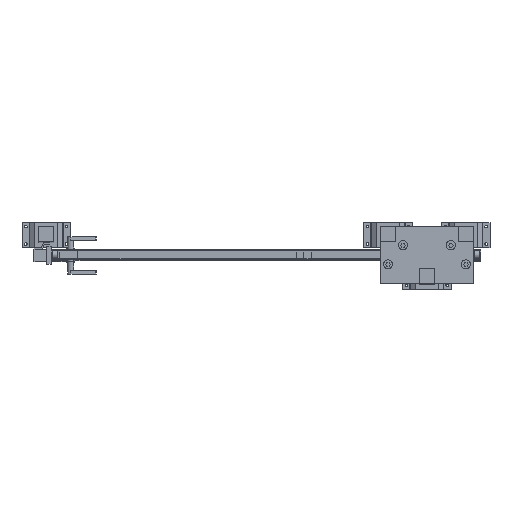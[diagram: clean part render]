
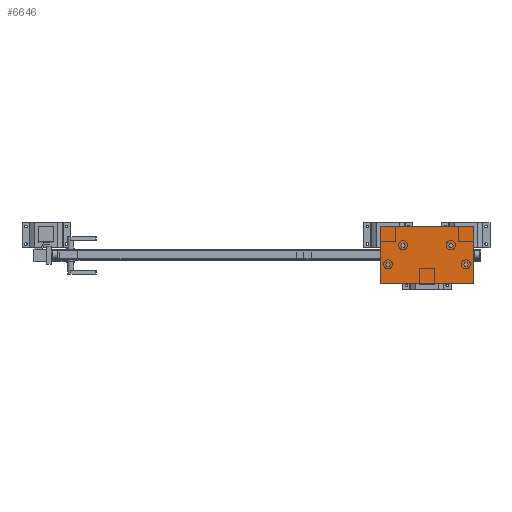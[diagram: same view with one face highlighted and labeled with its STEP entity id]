
A CAD part, top view. The second image highlights one B-rep face of the part: STEP entity #6646.
In plain terms, the highlighted planar face has unit normal (0, 0, 1).
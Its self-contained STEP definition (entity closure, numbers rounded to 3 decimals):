
#824=FACE_OUTER_BOUND('',#1353,.T.);
#1353=EDGE_LOOP('',(#4972,#4973,#4974,#4975));
#2051=VERTEX_POINT('',#16635);
#2052=VERTEX_POINT('',#16636);
#2053=VERTEX_POINT('',#16638);
#2054=VERTEX_POINT('',#16640);
#3077=EDGE_CURVE('',#2051,#2052,#8138,.T.);
#3078=EDGE_CURVE('',#2053,#2051,#8139,.T.);
#3079=EDGE_CURVE('',#2053,#2054,#8140,.T.);
#3080=EDGE_CURVE('',#2052,#2054,#8141,.T.);
#4972=ORIENTED_EDGE('',*,*,#3077,.F.);
#4973=ORIENTED_EDGE('',*,*,#3078,.F.);
#4974=ORIENTED_EDGE('',*,*,#3079,.T.);
#4975=ORIENTED_EDGE('',*,*,#3080,.F.);
#6154=PLANE('',#10183);
#6646=ADVANCED_FACE('',(#824),#6154,.T.);
#8138=LINE('',#16637,#9329);
#8139=LINE('',#16639,#9330);
#8140=LINE('',#16641,#9331);
#8141=LINE('',#16642,#9332);
#9329=VECTOR('',#12144,1.);
#9330=VECTOR('',#12145,1.);
#9331=VECTOR('',#12146,1.);
#9332=VECTOR('',#12147,1.);
#10183=AXIS2_PLACEMENT_3D('',#16634,#12142,#12143);
#12142=DIRECTION('center_axis',(0.,0.,1.));
#12143=DIRECTION('ref_axis',(1.,0.,0.));
#12144=DIRECTION('',(0.,1.,0.));
#12145=DIRECTION('',(-1.,0.,0.));
#12146=DIRECTION('',(0.,1.,0.));
#12147=DIRECTION('',(1.,0.,0.));
#16634=CARTESIAN_POINT('Origin',(3168.517,1887.18,2333.));
#16635=CARTESIAN_POINT('',(3168.517,1887.18,2333.));
#16636=CARTESIAN_POINT('',(3168.517,2117.18,2333.));
#16637=CARTESIAN_POINT('',(3168.517,1887.18,2333.));
#16638=CARTESIAN_POINT('',(3538.517,1887.18,2333.));
#16639=CARTESIAN_POINT('',(3538.517,1887.18,2333.));
#16640=CARTESIAN_POINT('',(3538.517,2117.18,2333.));
#16641=CARTESIAN_POINT('',(3538.517,1887.18,2333.));
#16642=CARTESIAN_POINT('',(3353.517,2117.18,2333.));
